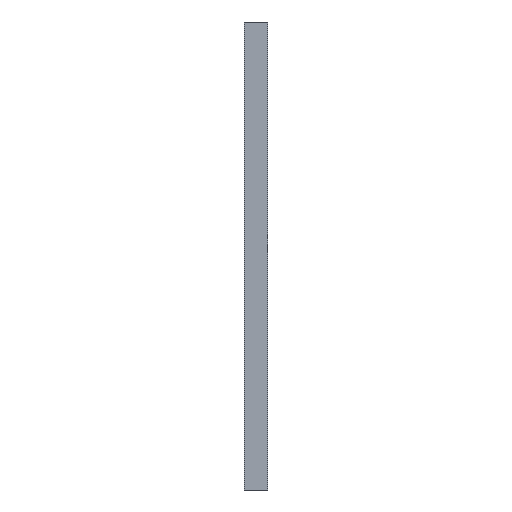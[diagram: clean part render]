
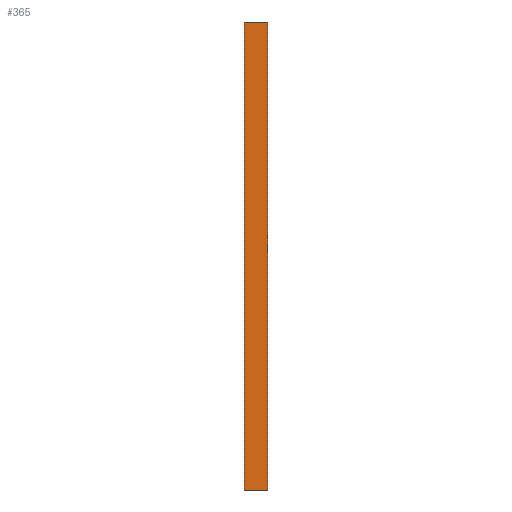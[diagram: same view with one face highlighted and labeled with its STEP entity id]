
A CAD part, left-side view. The second image highlights one B-rep face of the part: STEP entity #365.
In plain terms, the highlighted planar face has unit normal (-1, 0, 0).
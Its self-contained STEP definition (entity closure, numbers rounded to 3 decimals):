
#46 = DIRECTION ( 'NONE',  ( 0., 1., 0. ) ) ;
#59 = DIRECTION ( 'NONE',  ( 0., 0., 1. ) ) ;
#74 = VECTOR ( 'NONE', #912, 1000. ) ;
#110 = EDGE_CURVE ( 'NONE', #793, #683, #389, .T. ) ;
#132 = CARTESIAN_POINT ( 'NONE',  ( -194., 0., 50. ) ) ;
#197 = EDGE_CURVE ( 'NONE', #550, #497, #775, .T. ) ;
#213 = ORIENTED_EDGE ( 'NONE', *, *, #110, .F. ) ;
#217 = LINE ( 'NONE', #738, #74 ) ;
#295 = CARTESIAN_POINT ( 'NONE',  ( -194., 0., -342.5 ) ) ;
#297 = ORIENTED_EDGE ( 'NONE', *, *, #650, .T. ) ;
#333 = CARTESIAN_POINT ( 'NONE',  ( -194., -20., -342.5 ) ) ;
#339 = FACE_OUTER_BOUND ( 'NONE', #441, .T. ) ;
#365 = ADVANCED_FACE ( 'NONE', ( #339 ), #864, .T. ) ;
#371 = VECTOR ( 'NONE', #988, 1000. ) ;
#377 = CARTESIAN_POINT ( 'NONE',  ( -194., -20., 50. ) ) ;
#385 = ORIENTED_EDGE ( 'NONE', *, *, #931, .F. ) ;
#389 = LINE ( 'NONE', #295, #371 ) ;
#413 = CARTESIAN_POINT ( 'NONE',  ( -194., 0., -342.5 ) ) ;
#441 = EDGE_LOOP ( 'NONE', ( #213, #385, #536, #297 ) ) ;
#497 = VERTEX_POINT ( 'NONE', #377 ) ;
#505 = DIRECTION ( 'NONE',  ( -1., 0., 0. ) ) ;
#536 = ORIENTED_EDGE ( 'NONE', *, *, #197, .T. ) ;
#550 = VERTEX_POINT ( 'NONE', #716 ) ;
#587 = VECTOR ( 'NONE', #690, 1000. ) ;
#591 = LINE ( 'NONE', #1078, #736 ) ;
#650 = EDGE_CURVE ( 'NONE', #497, #683, #217, .T. ) ;
#683 = VERTEX_POINT ( 'NONE', #132 ) ;
#690 = DIRECTION ( 'NONE',  ( 0., 0., 1. ) ) ;
#716 = CARTESIAN_POINT ( 'NONE',  ( -194., -20., -342.5 ) ) ;
#736 = VECTOR ( 'NONE', #46, 1000. ) ;
#738 = CARTESIAN_POINT ( 'NONE',  ( -194., -20., 50. ) ) ;
#775 = LINE ( 'NONE', #333, #587 ) ;
#793 = VERTEX_POINT ( 'NONE', #413 ) ;
#811 = AXIS2_PLACEMENT_3D ( 'NONE', #1099, #505, #59 ) ;
#864 = PLANE ( 'NONE',  #811 ) ;
#912 = DIRECTION ( 'NONE',  ( 0., 1., 0. ) ) ;
#931 = EDGE_CURVE ( 'NONE', #550, #793, #591, .T. ) ;
#988 = DIRECTION ( 'NONE',  ( 0., 0., 1. ) ) ;
#1078 = CARTESIAN_POINT ( 'NONE',  ( -194., -20., -342.5 ) ) ;
#1099 = CARTESIAN_POINT ( 'NONE',  ( -194., -20., -342.5 ) ) ;
